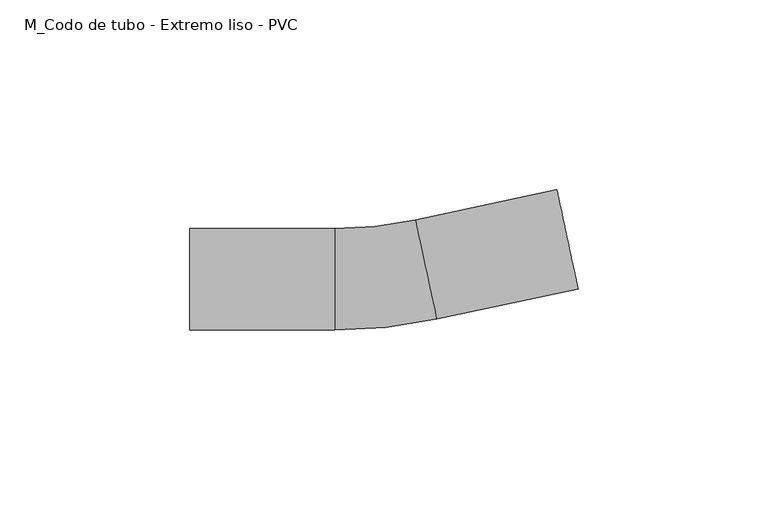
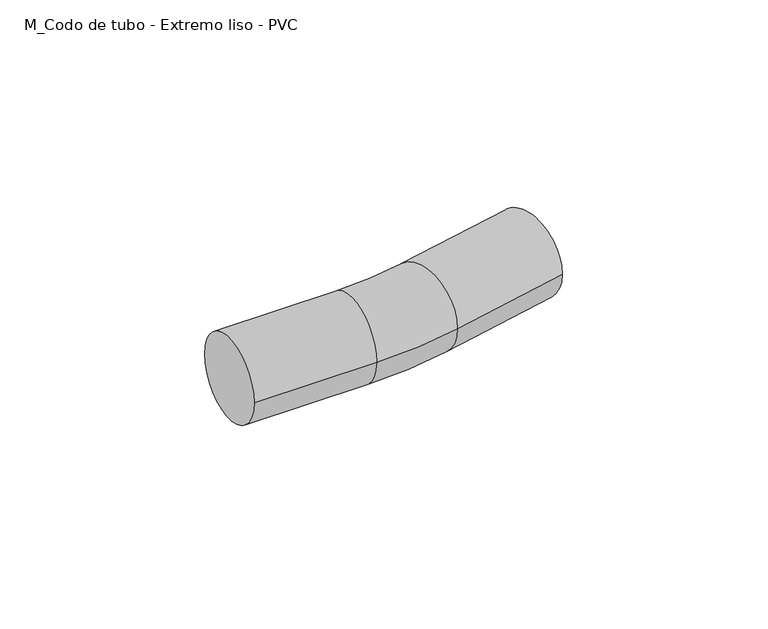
"""IFC4 building model written with IfcOpenShell, lengths in millimetres: cable carrier fitting geometry, M_Codo de tubo - Extremo liso - PVC : CODO ILUMINACION."""

from ifc_helpers import new_model, si_unit, point, frame, origin, place, context, project, spatial, circle_curve, ellipse_curve, trimmed, source, transform, mapped, element, save
from ifc_brep_helpers import plane_surface, cylinder_surface, revolved_surface, advanced_brep


def m_codo_de_tubo_extremo_liso_pvc_c93ebd9e(model_context):
    return source(origin(), model_context, "Body", "AdvancedBrep", [
        advanced_brep(
        [(-50.2445409, -13.335, 0.0), (-50.2445409, 13.335, 0.0), (-12.1445409, -13.335, 0.0), (-12.1445409, 13.335, 0.0), (9.0713012, 15.589214, 0.0), (14.6754858, -10.4853332, 0.0), (51.924839, -2.4793551, 0.0), (46.3206544, 23.5951921, 0.0)],
        [
            (0, 1, circle_curve(frame((-50.2445409, 0.0, 0.0), z_axis=(-1.0, 0.0, 0.0), x_axis=(0.0, 1.0, 0.0)), 13.335)),
            (1, 0, circle_curve(frame((-50.2445409, 0.0, 0.0), z_axis=(-1.0, 0.0, 0.0), x_axis=(0.0, 1.0, 0.0)), 13.335)),
            (0, 2),
            (2, 3, circle_curve(frame((-12.1445409, 0.0, 0.0), z_axis=(-1.0, 0.0, 0.0), x_axis=(0.0, 1.0, 0.0)), 13.335)),
            (3, 1),
            (3, 2, circle_curve(frame((-12.1445409, 0.0, 0.0), z_axis=(-1.0, 0.0, 0.0), x_axis=(0.0, 1.0, 0.0)), 13.335)),
            (4, 3, circle_curve(frame((-12.1445409, 114.3, 0.0), z_axis=(0.0, 0.0, -1.0), x_axis=(0.0, -1.0, 0.0)), 100.965)),
            (2, 5, circle_curve(frame((-12.1445409, 114.3, 0.0), z_axis=(0.0, 0.0, 1.0), x_axis=(0.0, -1.0, 0.0)), 127.635)),
            (5, 4, circle_curve(frame((11.8733935, 2.5519404, 0.0), z_axis=(-0.9776733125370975, -0.2101306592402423, 0.0), x_axis=(-0.2101306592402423, 0.9776733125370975, 0.0)), 13.335)),
            (4, 5, circle_curve(frame((11.8733935, 2.5519404, 0.0), z_axis=(-0.9776733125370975, -0.2101306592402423, 0.0), x_axis=(-0.2101306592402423, 0.9776733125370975, 0.0)), 13.335)),
            (6, 7, circle_curve(frame((49.1227467, 10.5579185, 0.0), z_axis=(0.9776733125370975, 0.2101306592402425, 0.0), x_axis=(-0.2101306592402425, 0.9776733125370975, 0.0)), 13.335)),
            (7, 6, circle_curve(frame((49.1227467, 10.5579185, 0.0), z_axis=(0.9776733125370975, 0.2101306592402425, 0.0), x_axis=(-0.2101306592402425, 0.9776733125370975, 0.0)), 13.335)),
            (5, 6),
            (7, 4),
        ],
        [
            plane_surface(frame((-50.2445409, 0.0, 0.0), z_axis=(-1.0, 0.0, 0.0), x_axis=(0.0, 0.0, 1.0))),
            cylinder_surface(frame((-50.2445409, 0.0, 0.0), z_axis=(-1.0, 0.0, 0.0), x_axis=(0.0, 1.0, 0.0)), 13.335),
            revolved_surface(trimmed(ellipse_curve(frame((-12.1445409, 0.0, 0.0), z_axis=(-1.0, 0.0, 0.0), x_axis=(0.0, 1.0, 0.0)), 13.335, 13.335), [point((-12.1445409, -13.335, 0.0))], [point((-12.1445409, 13.335, 0.0))], True, "CARTESIAN"), (-12.1445409, 114.3, 0.0), (0.0, 0.0, 1.0)),
            revolved_surface(trimmed(ellipse_curve(frame((-12.1445409, 0.0, 0.0), z_axis=(-1.0, 0.0, 0.0), x_axis=(0.0, 1.0, 0.0)), 13.335, 13.335), [point((-12.1445409, 13.335, 0.0))], [point((-12.1445409, -13.335, 0.0))], True, "CARTESIAN"), (-12.1445409, 114.3, 0.0), (0.0, 0.0, 1.0)),
            plane_surface(frame((49.1227467, 10.5579185, 0.0), z_axis=(0.9776733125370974, 0.21013065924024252, 0.0), x_axis=(0.0, 0.0, 1.0))),
            cylinder_surface(frame((11.8733935, 2.5519404, 0.0), z_axis=(-0.9776733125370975, -0.2101306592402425, 0.0), x_axis=(-0.2101306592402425, 0.9776733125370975, 0.0)), 13.335),
        ],
        [
            (0, [[1, 2]]),
            (1, [[-1, 3, 4, 5]]),
            (1, [[-2, -5, 6, -3]]),
            (2, [[7, -4, 8, 9]]),
            (3, [[-8, -6, -7, 10]]),
            (4, [[11, 12]]),
            (5, [[-9, 13, -12, 14]]),
            (5, [[-10, -14, -11, -13]]),
        ],
    ),
    ])


if __name__ == "__main__":
    model = new_model("IFC4")
    model_context = context("Model", 3, world=origin())
    ifc_project = project(units=[si_unit("LENGTHUNIT", "METRE", prefix="MILLI")], contexts=[model_context])
    site = spatial("IfcSite", under=ifc_project)
    building = spatial("IfcBuilding", under=site)
    placement = place(None, origin())
    m_codo_de_tubo_extremo_liso_pvc_shape = m_codo_de_tubo_extremo_liso_pvc_c93ebd9e(model_context)
    element("IfcCableCarrierFitting", 1, ObjectType="M_Codo de tubo - Extremo liso - PVC : CODO ILUMINACION", at=placement, inside=building, context=model_context, shape_type="MappedRepresentation", body=[
        mapped(m_codo_de_tubo_extremo_liso_pvc_shape, transform((0.0, 0.0, 0.0), x_axis=(1.0, 0.0, 0.0), y_axis=(0.0, 1.0, 0.0), z_axis=(0.0, 0.0, 1.0))),
    ])
    save(model, "model.ifc")
